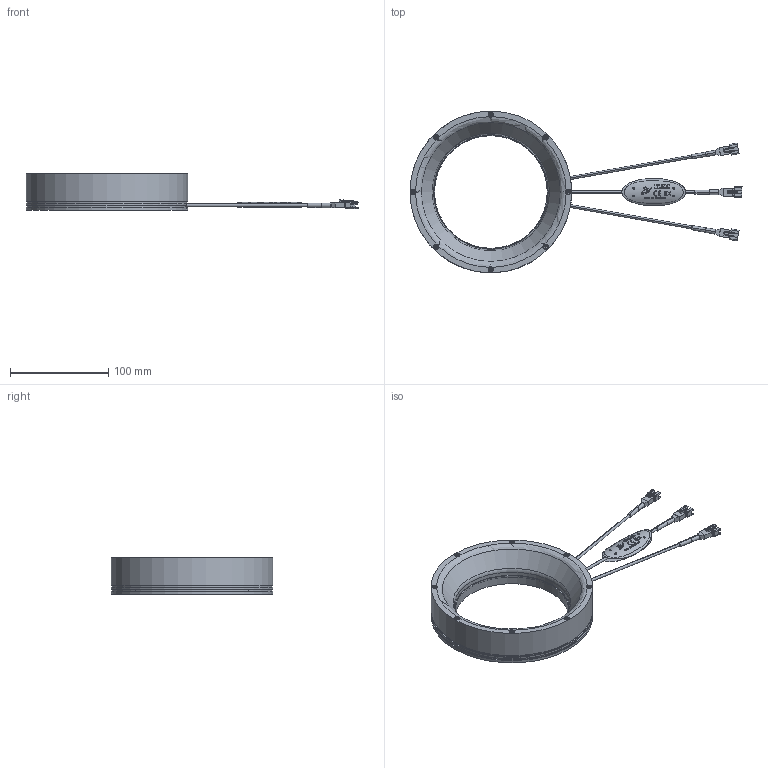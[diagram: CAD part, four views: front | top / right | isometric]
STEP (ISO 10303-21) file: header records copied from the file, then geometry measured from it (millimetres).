
FILE_DESCRIPTION( ('This file contains a STEP AP42 implementation' ,'as created by ZW3D STEP Interface translator.') ,'2;1' );
FILE_NAME( 'VMR-165115RGB_DRAWING_3D_Rev.011.stp' ,'25 911.144512', (''), ('ZWCAD Software Co.'), 'Version 1.0', 'ZW3D to STEP translator', '' );
FILE_SCHEMA(('AUTOMOTIVE_DESIGN { 1 0 10303 214 1 1 1 1 }'));
Length unit declared in the file: millimetre
Products named in the file (1): 0
Bounding box: 338.73 x 165 x 37.25 mm (x, y, z)
Volume: 217481.3 mm3; surface area: 107901.8 mm2
Topology: 5 solids, 21 shells, 925 faces, 2671 edges, 1857 vertices
Faces by surface type: plane 559, cylinder 297, cone 23, torus 16, sphere 16, bspline 14
Full cylindrical faces by diameter (mm): 1.6 x16, 2 x8, 2.5 x8, 3.5 x16, 115 x1, 116.5 x1, 118 x1, 121 x1, 121.5 x1, 123 x1, 149 x1, 163 x1, 165 x2
Entity records: 33406 total; most frequent: CARTESIAN_POINT 8163, ORIENTED_EDGE 5302, DIRECTION 4703, EDGE_CURVE 2651, VERTEX_POINT 1857, VECTOR 1603, LINE 1603, AXIS2_PLACEMENT_3D 1550
